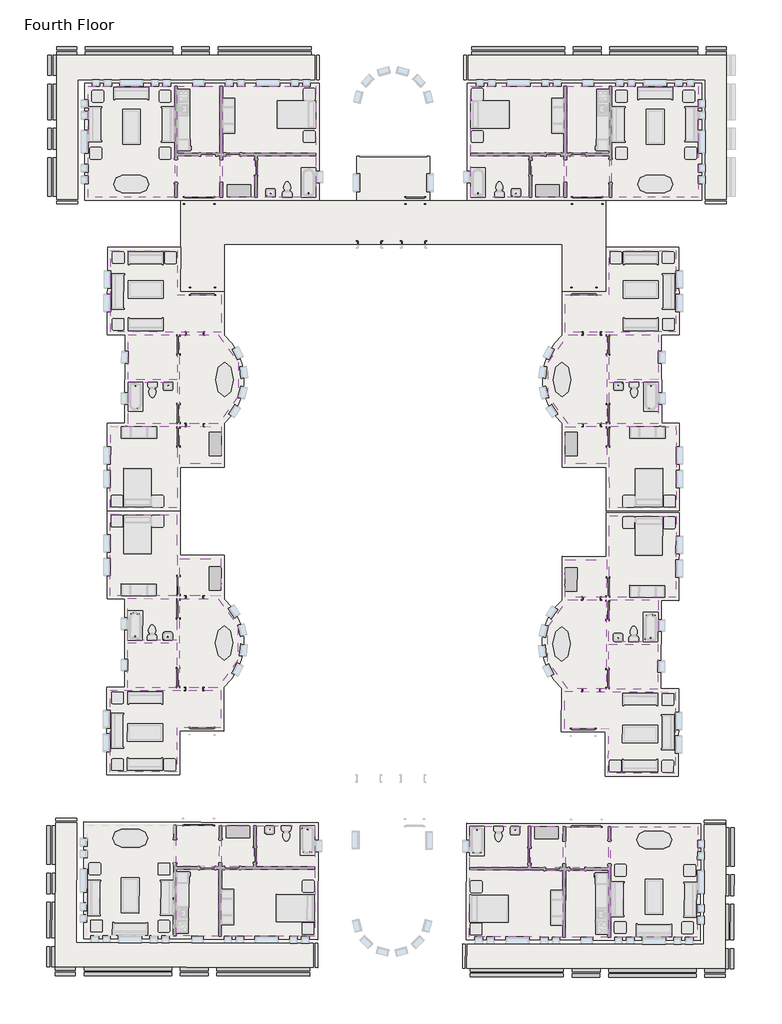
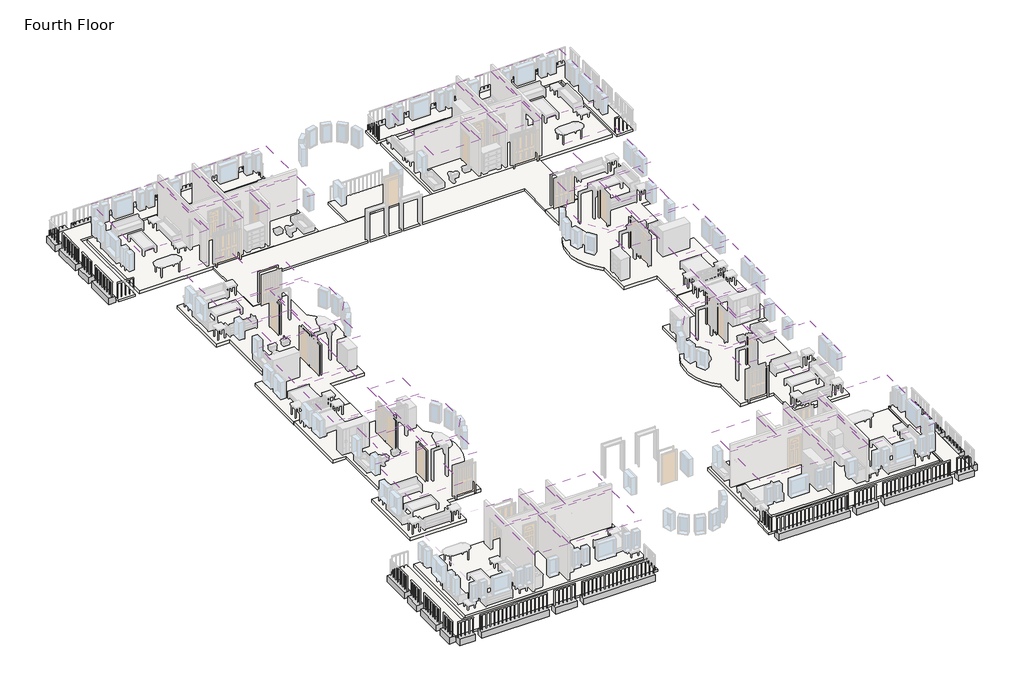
# One storey, part 3 of 8: 47 coverings, 14 slabs, 7 beams.
"""IFC4 building model written with IfcOpenShell, lengths in millimetres."""

from ifc_helpers import new_model, si_unit, point, frame, frame_2d, origin, place, context, project, spatial, polyline, circle_curve, trimmed, segment, composite_curve, outline, extrude, element, save

model = new_model("IFC4")

# Units and contexts
model_context = context("Model", 3, world=origin())
ifc_project = project(units=[si_unit("LENGTHUNIT", "METRE", prefix="MILLI")], contexts=[model_context])

# Site, building, storey
site = spatial("IfcSite", under=ifc_project)
building = spatial("IfcBuilding", under=site)
storey = spatial("IfcBuildingStorey", under=building, Name="Fourth Floor", Elevation=9144.0)

# Beams
placement = place(None, origin())
element("IfcBeam", 1, ObjectType="M_Concrete-Rectangular Beam : 450 x 450", at=placement, inside=storey, context=model_context, shape_type="SweptSolid", body=[
    extrude(outline(polyline([(-1643.3416203, 4481.1188386), (-1643.3416203, 4031.1188386), (-2693.3416203, 4031.1188386), (-2693.3416203, 4481.1188386), (-1643.3416203, 4481.1188386)])), frame((0.0, 0.0, 8694.0), z_axis=(0.0, 0.0, 1.0), x_axis=(1.0, 0.0, 0.0)), (0.0, 0.0, 1.0), 450.0),
    extrude(outline(polyline([(-14885.3416203, 4031.1188386), (-14885.3416203, 4481.1188386), (-10043.3416203, 4481.1188386), (-10043.3416203, 4031.1188386), (-14885.3416203, 4031.1188386)])), frame((0.0, 0.0, 8694.0), z_axis=(0.0, 0.0, 1.0), x_axis=(1.0, 0.0, 0.0)), (0.0, 0.0, 1.0), 450.0),
    extrude(outline(polyline([(-3143.3416203, 4481.1188386), (-3143.3416203, 4031.1188386), (-7693.3416203, 4031.1188386), (-7693.3416203, 4481.1188386), (-3143.3416203, 4481.1188386)])), frame((0.0, 0.0, 8694.0), z_axis=(0.0, 0.0, 1.0), x_axis=(1.0, 0.0, 0.0)), (0.0, 0.0, 1.0), 450.0),
    extrude(outline(polyline([(-8143.3416203, 4481.1188386), (-8143.3416203, 4031.1188386), (-9593.3416203, 4031.1188386), (-9593.3416203, 4481.1188386), (-8143.3416203, 4481.1188386)])), frame((0.0, 0.0, 8694.0), z_axis=(0.0, 0.0, 1.0), x_axis=(1.0, 0.0, 0.0)), (0.0, 0.0, 1.0), 450.0),
])
element("IfcBeam", 2, ObjectType="M_Concrete-Rectangular Beam : 450 x 450", at=placement, inside=storey, context=model_context, shape_type="SweptSolid", body=[
    extrude(outline(polyline([(-36458.8416203, 4031.1188386), (-36458.8416203, 4481.1188386), (-35408.8416203, 4481.1188386), (-35408.8416203, 4031.1188386), (-36458.8416203, 4031.1188386)])), frame((0.0, 0.0, 8694.0), z_axis=(0.0, 0.0, 1.0), x_axis=(1.0, 0.0, 0.0)), (0.0, 0.0, 1.0), 450.0),
    extrude(outline(polyline([(-23216.8416203, 4481.1188386), (-23216.8416203, 4031.1188386), (-28058.8416203, 4031.1188386), (-28058.8416203, 4481.1188386), (-23216.8416203, 4481.1188386)])), frame((0.0, 0.0, 8694.0), z_axis=(0.0, 0.0, 1.0), x_axis=(1.0, 0.0, 0.0)), (0.0, 0.0, 1.0), 450.0),
    extrude(outline(polyline([(-34958.8416203, 4031.1188386), (-34958.8416203, 4481.1188386), (-30408.8416203, 4481.1188386), (-30408.8416203, 4031.1188386), (-34958.8416203, 4031.1188386)])), frame((0.0, 0.0, 8694.0), z_axis=(0.0, 0.0, 1.0), x_axis=(1.0, 0.0, 0.0)), (0.0, 0.0, 1.0), 450.0),
    extrude(outline(polyline([(-29958.8416203, 4031.1188386), (-29958.8416203, 4481.1188386), (-28508.8416203, 4481.1188386), (-28508.8416203, 4031.1188386), (-29958.8416203, 4031.1188386)])), frame((0.0, 0.0, 8694.0), z_axis=(0.0, 0.0, 1.0), x_axis=(1.0, 0.0, 0.0)), (0.0, 0.0, 1.0), 450.0),
])
element("IfcBeam", 3, ObjectType="M_Concrete-Rectangular Beam : 450 x 450", at=placement, inside=storey, context=model_context, shape_type="SweptSolid", body=[
    extrude(outline(polyline([(-36458.8416203, -3289.8811614), (-36908.8416203, -3289.8811614), (-36908.8416203, -1295.3811614), (-36458.8416203, -1295.3811614), (-36458.8416203, -3289.8811614)])), frame((0.0, 0.0, 8694.0), z_axis=(0.0, 0.0, 1.0), x_axis=(1.0, 0.0, 0.0)), (0.0, 0.0, 1.0), 450.0),
    extrude(outline(polyline([(-36458.8416203, 2981.1188386), (-36908.8416203, 2981.1188386), (-36908.8416203, 4031.1188386), (-36458.8416203, 4031.1188386), (-36458.8416203, 2981.1188386)])), frame((0.0, 0.0, 8694.0), z_axis=(0.0, 0.0, 1.0), x_axis=(1.0, 0.0, 0.0)), (0.0, 0.0, 1.0), 450.0),
    extrude(outline(polyline([(-36908.8416203, 2531.1188386), (-36458.8416203, 2531.1188386), (-36458.8416203, 681.1188386), (-36908.8416203, 681.1188386), (-36908.8416203, 2531.1188386)])), frame((0.0, 0.0, 8694.0), z_axis=(0.0, 0.0, 1.0), x_axis=(1.0, 0.0, 0.0)), (0.0, 0.0, 1.0), 450.0),
    extrude(outline(polyline([(-36908.8416203, 231.1188386), (-36458.8416203, 231.1188386), (-36458.8416203, -845.3811614), (-36908.8416203, -845.3811614), (-36908.8416203, 231.1188386)])), frame((0.0, 0.0, 8694.0), z_axis=(0.0, 0.0, 1.0), x_axis=(1.0, 0.0, 0.0)), (0.0, 0.0, 1.0), 450.0),
])
element("IfcBeam", 4, ObjectType="M_Concrete-Rectangular Beam : 450 x 450", at=placement, inside=storey, context=model_context, shape_type="SweptSolid", body=[
    extrude(outline(polyline([(-1712.0689607, -43451.2055858), (-1713.3716449, -43901.2037003), (-2763.3672453, -43898.1641037), (-2762.0645611, -43448.1659892), (-1712.0689607, -43451.2055858)])), frame((0.0, 0.0, 8694.0), z_axis=(0.0, 0.0, 1.0), x_axis=(1.0, 0.0, 0.0)), (0.0, 0.0, 1.0), 450.0),
    extrude(outline(polyline([(-14955.3161596, -43862.8700448), (-14954.0134754, -43412.8719303), (-10112.0337638, -43426.888813), (-10113.3364481, -43876.8869274), (-14955.3161596, -43862.8700448)])), frame((0.0, 0.0, 8694.0), z_axis=(0.0, 0.0, 1.0), x_axis=(1.0, 0.0, 0.0)), (0.0, 0.0, 1.0), 450.0),
    extrude(outline(polyline([(-3212.0626755, -43446.863305), (-3213.3653598, -43896.8614194), (-7763.3462948, -43883.6898341), (-7762.0436106, -43433.6917196), (-3212.0626755, -43446.863305)])), frame((0.0, 0.0, 8694.0), z_axis=(0.0, 0.0, 1.0), x_axis=(1.0, 0.0, 0.0)), (0.0, 0.0, 1.0), 450.0),
    extrude(outline(polyline([(-8212.041725, -43432.3890354), (-8213.3444093, -43882.3871498), (-9663.3383336, -43878.1896117), (-9662.0356494, -43428.1914972), (-8212.041725, -43432.3890354)])), frame((0.0, 0.0, 8694.0), z_axis=(0.0, 0.0, 1.0), x_axis=(1.0, 0.0, 0.0)), (0.0, 0.0, 1.0), 450.0),
])
element("IfcBeam", 5, ObjectType="M_Concrete-Rectangular Beam : 450 x 450", at=placement, inside=storey, context=model_context, shape_type="SweptSolid", body=[
    extrude(outline(polyline([(-1690.8757352, -36130.2362615), (-1240.8776207, -36131.5389458), (-1246.6514068, -38126.0305886), (-1696.6495213, -38124.7279044), (-1690.8757352, -36130.2362615)])), frame((0.0, 0.0, 8694.0), z_axis=(0.0, 0.0, 1.0), x_axis=(1.0, 0.0, 0.0)), (0.0, 0.0, 1.0), 450.0),
    extrude(outline(polyline([(-1709.0293641, -42401.2099854), (-1259.0312496, -42402.5126697), (-1262.0708462, -43452.5082701), (-1712.0689607, -43451.2055858), (-1709.0293641, -42401.2099854)])), frame((0.0, 0.0, 8694.0), z_axis=(0.0, 0.0, 1.0), x_axis=(1.0, 0.0, 0.0)), (0.0, 0.0, 1.0), 450.0),
    extrude(outline(polyline([(-1257.7285653, -41952.5145552), (-1707.7266798, -41951.211871), (-1702.3712001, -40101.2196227), (-1252.3730856, -40102.5223069), (-1257.7285653, -41952.5145552)])), frame((0.0, 0.0, 8694.0), z_axis=(0.0, 0.0, 1.0), x_axis=(1.0, 0.0, 0.0)), (0.0, 0.0, 1.0), 450.0),
    extrude(outline(polyline([(-1251.0704013, -39652.5241925), (-1701.0685158, -39651.2215082), (-1697.9522056, -38574.7260188), (-1247.9540911, -38576.0287031), (-1251.0704013, -39652.5241925)])), frame((0.0, 0.0, 8694.0), z_axis=(0.0, 0.0, 1.0), x_axis=(1.0, 0.0, 0.0)), (0.0, 0.0, 1.0), 450.0),
])
element("IfcBeam", 6, ObjectType="M_Concrete-Rectangular Beam : 450 x 450", at=placement, inside=storey, context=model_context, shape_type="SweptSolid", body=[
    extrude(outline(polyline([(-36528.7257646, -43800.4179138), (-36527.4230803, -43350.4197994), (-35477.4274799, -43353.459396), (-35478.7301642, -43803.4575104), (-36528.7257646, -43800.4179138)])), frame((0.0, 0.0, 8694.0), z_axis=(0.0, 0.0, 1.0), x_axis=(1.0, 0.0, 0.0)), (0.0, 0.0, 1.0), 450.0),
    extrude(outline(polyline([(-23285.4785656, -43388.7534549), (-23286.7812498, -43838.7515694), (-28128.7609614, -43824.7346867), (-28127.4582771, -43374.7365723), (-23285.4785656, -43388.7534549)])), frame((0.0, 0.0, 8694.0), z_axis=(0.0, 0.0, 1.0), x_axis=(1.0, 0.0, 0.0)), (0.0, 0.0, 1.0), 450.0),
    extrude(outline(polyline([(-35028.7320497, -43804.7601947), (-35027.4293654, -43354.7620803), (-30477.4484304, -43367.9336656), (-30478.7511147, -43817.93178), (-35028.7320497, -43804.7601947)])), frame((0.0, 0.0, 8694.0), z_axis=(0.0, 0.0, 1.0), x_axis=(1.0, 0.0, 0.0)), (0.0, 0.0, 1.0), 450.0),
    extrude(outline(polyline([(-30028.7530002, -43819.2344643), (-30027.4503159, -43369.2363498), (-28577.4563916, -43373.433888), (-28578.7590758, -43823.4320025), (-30028.7530002, -43819.2344643)])), frame((0.0, 0.0, 8694.0), z_axis=(0.0, 0.0, 1.0), x_axis=(1.0, 0.0, 0.0)), (0.0, 0.0, 1.0), 450.0),
])
element("IfcBeam", 7, ObjectType="M_Concrete-Rectangular Beam : 450 x 450", at=placement, inside=storey, context=model_context, shape_type="SweptSolid", body=[
    extrude(outline(polyline([(-36974.3815981, -42299.1215147), (-36524.3834837, -42300.424199), (-36527.4230803, -43350.4197994), (-36977.4211948, -43349.1171151), (-36974.3815981, -42299.1215147)])), frame((0.0, 0.0, 8694.0), z_axis=(0.0, 0.0, 1.0), x_axis=(1.0, 0.0, 0.0)), (0.0, 0.0, 1.0), 450.0),
    extrude(outline(polyline([(-36956.2279692, -36028.1477908), (-36506.2298548, -36029.4504751), (-36512.0036409, -38023.9421179), (-36962.0017554, -38022.6394337), (-36956.2279692, -36028.1477908)])), frame((0.0, 0.0, 8694.0), z_axis=(0.0, 0.0, 1.0), x_axis=(1.0, 0.0, 0.0)), (0.0, 0.0, 1.0), 450.0),
    extrude(outline(polyline([(-36523.0807994, -41850.4260845), (-36973.0789139, -41849.1234003), (-36967.7234341, -39999.1311519), (-36517.7253197, -40000.4338362), (-36523.0807994, -41850.4260845)])), frame((0.0, 0.0, 8694.0), z_axis=(0.0, 0.0, 1.0), x_axis=(1.0, 0.0, 0.0)), (0.0, 0.0, 1.0), 450.0),
    extrude(outline(polyline([(-36516.4226354, -39550.4357218), (-36966.4207499, -39549.1330375), (-36963.3044396, -38472.6375481), (-36513.3063252, -38473.9402324), (-36516.4226354, -39550.4357218)])), frame((0.0, 0.0, 8694.0), z_axis=(0.0, 0.0, 1.0), x_axis=(1.0, 0.0, 0.0)), (0.0, 0.0, 1.0), 450.0),
])

# Coverings
element("IfcCovering", 8, ObjectType="Plain", at=placement, inside=storey, context=model_context, shape_type="SweptSolid", body=[
    extrude(outline(polyline([(-14935.3416203, 2406.1188386), (-10086.8416203, 2406.1188386), (-10086.8416203, -1070.3811614), (-14935.3416203, -1070.3811614), (-14935.3416203, 2406.1188386)])), frame((0.0, 0.0, 11734.0), z_axis=(0.0, 0.0, 1.0), x_axis=(1.0, 0.0, 0.0)), (0.0, 0.0, 1.0), 57.0),
])
element("IfcCovering", 9, ObjectType="Plain", at=placement, inside=storey, context=model_context, shape_type="SweptSolid", body=[
    extrude(outline(polyline([(-9951.3416203, -1070.3811614), (-9951.3416203, 2406.1188386), (-7733.0916203, 2406.1188386), (-7733.0916203, -1070.3811614), (-9951.3416203, -1070.3811614)])), frame((0.0, 0.0, 11734.0), z_axis=(0.0, 0.0, 1.0), x_axis=(1.0, 0.0, 0.0)), (0.0, 0.0, 1.0), 57.0),
])
element("IfcCovering", 10, ObjectType="Plain", at=placement, inside=storey, context=model_context, shape_type="SweptSolid", body=[
    extrude(outline(polyline([(-7597.5916203, -3339.8811614), (-7597.5916203, 2406.1188386), (-3093.3416203, 2406.1188386), (-3093.3416203, -3339.8811614), (-7597.5916203, -3339.8811614)])), frame((0.0, 0.0, 11734.0), z_axis=(0.0, 0.0, 1.0), x_axis=(1.0, 0.0, 0.0)), (0.0, 0.0, 1.0), 57.0),
])
element("IfcCovering", 11, ObjectType="Plain", at=placement, inside=storey, context=model_context, shape_type="SweptSolid", body=[
    extrude(outline(polyline([(-7733.0916203, -3339.8811614), (-9951.3416203, -3339.8811614), (-9951.3416203, -1205.8811614), (-7733.0916203, -1205.8811614), (-7733.0916203, -3339.8811614)])), frame((0.0, 0.0, 11734.0), z_axis=(0.0, 0.0, 1.0), x_axis=(1.0, 0.0, 0.0)), (0.0, 0.0, 1.0), 57.0),
])
element("IfcCovering", 12, ObjectType="Plain", at=placement, inside=storey, context=model_context, shape_type="SweptSolid", body=[
    extrude(outline(polyline([(-11887.3416203, -1205.8811614), (-11887.3416203, -3339.8811614), (-14935.3416203, -3339.8811614), (-14935.3416203, -1205.8811614), (-11887.3416203, -1205.8811614)])), frame((0.0, 0.0, 11734.0), z_axis=(0.0, 0.0, 1.0), x_axis=(1.0, 0.0, 0.0)), (0.0, 0.0, 1.0), 57.0),
])
element("IfcCovering", 13, ObjectType="Plain", at=placement, inside=storey, context=model_context, shape_type="SweptSolid", body=[
    extrude(outline(polyline([(-10086.8416203, -3339.8811614), (-11751.8416203, -3339.8811614), (-11751.8416203, -1205.8811614), (-10086.8416203, -1205.8811614), (-10086.8416203, -3339.8811614)])), frame((0.0, 0.0, 11734.0), z_axis=(0.0, 0.0, 1.0), x_axis=(1.0, 0.0, 0.0)), (0.0, 0.0, 1.0), 57.0),
])
element("IfcCovering", 14, ObjectType="Plain", at=placement, inside=storey, context=model_context, shape_type="SweptSolid", body=[
    extrude(outline(polyline([(-7719.603401, -17382.7647995), (-7726.8533934, -17382.7752934), (-7729.9194088, -15264.5275123), (-5002.0722663, -15260.5791445), (-5002.0617724, -15267.829137), (-4262.662547, -15266.7589083), (-4256.5515039, -19488.7544857), (-7716.5478795, -19493.7625882), (-7719.603401, -17382.7647995)])), frame((0.0, 0.0, 11735.0), z_axis=(0.0, 0.0, 1.0), x_axis=(1.0, 0.0, 0.0)), (0.0, 0.0, 1.0), 57.0),
])
element("IfcCovering", 15, ObjectType="Plain", at=placement, inside=storey, context=model_context, shape_type="SweptSolid", body=[
    extrude(outline(polyline([(-7730.1155353, -15129.0276542), (-7733.2504483, -12963.179923), (-5180.4031225, -12959.4848553), (-5177.2682095, -15125.3325865), (-7730.1155353, -15129.0276542)])), frame((0.0, 0.0, 11735.0), z_axis=(0.0, 0.0, 1.0), x_axis=(1.0, 0.0, 0.0)), (0.0, 0.0, 1.0), 57.0),
])
element("IfcCovering", 16, ObjectType="Plain", at=placement, inside=storey, context=model_context, shape_type="SweptSolid", body=[
    extrude(outline(polyline([(-7733.4465749, -12827.680065), (-7736.8265375, -10492.5325111), (-5183.9792116, -10488.8374433), (-5180.599249, -12823.9849972), (-7733.4465749, -12827.680065)])), frame((0.0, 0.0, 11735.0), z_axis=(0.0, 0.0, 1.0), x_axis=(1.0, 0.0, 0.0)), (0.0, 0.0, 1.0), 57.0),
])
element("IfcCovering", 17, ObjectType="Plain", at=placement, inside=storey, context=model_context, shape_type="SweptSolid", body=[
    extrude(outline(polyline([(-10015.770277, -10360.3309807), (-10018.5829924, -8417.0830163), (-7732.585387, -8413.7741948), (-7735.8942085, -6127.7765894), (-4275.8978329, -6122.7684869), (-4269.7867899, -10344.7640643), (-5009.1860154, -10345.8342929), (-5009.1755215, -10353.0842853), (-10015.770277, -10360.3309807)])), frame((0.0, 0.0, 11735.0), z_axis=(0.0, 0.0, 1.0), x_axis=(1.0, 0.0, 0.0)), (0.0, 0.0, 1.0), 57.0),
])
element("IfcCovering", 18, ObjectType="Plain", at=placement, inside=storey, context=model_context, shape_type="SweptSolid", body=[
    extrude(outline(composite_curve([segment(polyline([(-9871.5226854, -10495.6223343), (-7872.3263955, -10492.7286377), (-7865.6153934, -15129.2237808), (-9864.8116833, -15132.1174775)]), True, "CONTINUOUS"), segment(trimmed(circle_curve(frame_2d((-8171.1580789, -12811.413604)), 2873.0), [point((-9864.8116833, -15132.1174775))], [point((-9871.5226854, -10495.6223343))], False, "CARTESIAN"), True, "CONTINUOUS")], self_intersect=False)), frame((0.0, 0.0, 11735.0), z_axis=(0.0, 0.0, 1.0), x_axis=(1.0, 0.0, 0.0)), (0.0, 0.0, 1.0), 57.0),
])
element("IfcCovering", 19, ObjectType="Plain", at=placement, inside=storey, context=model_context, shape_type="SweptSolid", body=[
    extrude(outline(polyline([(-10008.6670217, -15267.8258399), (-7865.4192668, -15264.7236389), (-7862.6065515, -17207.9716033), (-10005.8543064, -17211.0738043), (-10008.6670217, -15267.8258399)])), frame((0.0, 0.0, 11735.0), z_axis=(0.0, 0.0, 1.0), x_axis=(1.0, 0.0, 0.0)), (0.0, 0.0, 1.0), 57.0),
])
element("IfcCovering", 20, ObjectType="Plain", at=placement, inside=storey, context=model_context, shape_type="SweptSolid", body=[
    extrude(outline(polyline([(-22978.8416203, 2406.1188386), (-22978.8416203, -1070.3811614), (-27827.3416203, -1070.3811614), (-27827.3416203, 2406.1188386), (-22978.8416203, 2406.1188386)])), frame((0.0, 0.0, 11734.0), z_axis=(0.0, 0.0, 1.0), x_axis=(1.0, 0.0, 0.0)), (0.0, 0.0, 1.0), 57.0),
])
element("IfcCovering", 21, ObjectType="Plain", at=placement, inside=storey, context=model_context, shape_type="SweptSolid", body=[
    extrude(outline(polyline([(-27962.8416203, -1070.3811614), (-30181.0916203, -1070.3811614), (-30181.0916203, 2406.1188386), (-27962.8416203, 2406.1188386), (-27962.8416203, -1070.3811614)])), frame((0.0, 0.0, 11734.0), z_axis=(0.0, 0.0, 1.0), x_axis=(1.0, 0.0, 0.0)), (0.0, 0.0, 1.0), 57.0),
])
element("IfcCovering", 22, ObjectType="Plain", at=placement, inside=storey, context=model_context, shape_type="SweptSolid", body=[
    extrude(outline(polyline([(-30316.5916203, -3339.8811614), (-34820.8416203, -3339.8811614), (-34820.8416203, 2406.1188386), (-30316.5916203, 2406.1188386), (-30316.5916203, -3339.8811614)])), frame((0.0, 0.0, 11734.0), z_axis=(0.0, 0.0, 1.0), x_axis=(1.0, 0.0, 0.0)), (0.0, 0.0, 1.0), 57.0),
])
element("IfcCovering", 23, ObjectType="Plain", at=placement, inside=storey, context=model_context, shape_type="SweptSolid", body=[
    extrude(outline(polyline([(-30181.0916203, -3339.8811614), (-30181.0916203, -1205.8811614), (-27962.8416203, -1205.8811614), (-27962.8416203, -3339.8811614), (-30181.0916203, -3339.8811614)])), frame((0.0, 0.0, 11734.0), z_axis=(0.0, 0.0, 1.0), x_axis=(1.0, 0.0, 0.0)), (0.0, 0.0, 1.0), 57.0),
])
element("IfcCovering", 24, ObjectType="Plain", at=placement, inside=storey, context=model_context, shape_type="SweptSolid", body=[
    extrude(outline(polyline([(-26026.8416203, -1205.8811614), (-22978.8416203, -1205.8811614), (-22978.8416203, -3339.8811614), (-26026.8416203, -3339.8811614), (-26026.8416203, -1205.8811614)])), frame((0.0, 0.0, 11734.0), z_axis=(0.0, 0.0, 1.0), x_axis=(1.0, 0.0, 0.0)), (0.0, 0.0, 1.0), 57.0),
])
element("IfcCovering", 25, ObjectType="Plain", at=placement, inside=storey, context=model_context, shape_type="SweptSolid", body=[
    extrude(outline(polyline([(-27827.3416203, -3339.8811614), (-27827.3416203, -1205.8811614), (-26162.3416203, -1205.8811614), (-26162.3416203, -3339.8811614), (-27827.3416203, -3339.8811614)])), frame((0.0, 0.0, 11734.0), z_axis=(0.0, 0.0, 1.0), x_axis=(1.0, 0.0, 0.0)), (0.0, 0.0, 1.0), 57.0),
])
element("IfcCovering", 26, ObjectType="Plain", at=placement, inside=storey, context=model_context, shape_type="SweptSolid", body=[
    extrude(outline(polyline([(-30194.5798396, -17382.7647995), (-30197.6353611, -19493.7625882), (-33657.6317367, -19488.7544857), (-33651.5206937, -15266.7589083), (-32912.1214682, -15267.829137), (-32912.1109744, -15260.5791445), (-30184.2638319, -15264.5275123), (-30187.3298472, -17382.7752934), (-30194.5798396, -17382.7647995)])), frame((0.0, 0.0, 11735.0), z_axis=(0.0, 0.0, 1.0), x_axis=(1.0, 0.0, 0.0)), (0.0, 0.0, 1.0), 57.0),
])
element("IfcCovering", 27, ObjectType="Plain", at=placement, inside=storey, context=model_context, shape_type="SweptSolid", body=[
    extrude(outline(polyline([(-30184.0677053, -15129.0276542), (-32736.9150311, -15125.3325865), (-32733.7801182, -12959.4848553), (-30180.9327923, -12963.179923), (-30184.0677053, -15129.0276542)])), frame((0.0, 0.0, 11735.0), z_axis=(0.0, 0.0, 1.0), x_axis=(1.0, 0.0, 0.0)), (0.0, 0.0, 1.0), 57.0),
])
element("IfcCovering", 28, ObjectType="Plain", at=placement, inside=storey, context=model_context, shape_type="SweptSolid", body=[
    extrude(outline(polyline([(-30180.7366658, -12827.680065), (-32733.5839916, -12823.9849972), (-32730.204029, -10488.8374433), (-30177.3567032, -10492.5325111), (-30180.7366658, -12827.680065)])), frame((0.0, 0.0, 11735.0), z_axis=(0.0, 0.0, 1.0), x_axis=(1.0, 0.0, 0.0)), (0.0, 0.0, 1.0), 57.0),
])
element("IfcCovering", 29, ObjectType="Plain", at=placement, inside=storey, context=model_context, shape_type="SweptSolid", body=[
    extrude(outline(polyline([(-27898.4129637, -10360.3309807), (-32905.0077191, -10353.0842853), (-32904.9972253, -10345.8342929), (-33644.3964507, -10344.7640643), (-33638.2854077, -6122.7684869), (-30178.2890322, -6127.7765894), (-30181.5978537, -8413.7741948), (-27895.6002483, -8417.0830163), (-27898.4129637, -10360.3309807)])), frame((0.0, 0.0, 11735.0), z_axis=(0.0, 0.0, 1.0), x_axis=(1.0, 0.0, 0.0)), (0.0, 0.0, 1.0), 57.0),
])
element("IfcCovering", 30, ObjectType="Plain", at=placement, inside=storey, context=model_context, shape_type="SweptSolid", body=[
    extrude(outline(composite_curve([segment(trimmed(circle_curve(frame_2d((-29743.0251618, -12811.413604)), 2873.0), [point((-28042.6605552, -10495.6223343))], [point((-28049.3715573, -15132.1174775))], False, "CARTESIAN"), True, "CONTINUOUS"), segment(polyline([(-28049.3715573, -15132.1174775), (-30048.5678472, -15129.2237808), (-30041.8568451, -10492.7286377), (-28042.6605552, -10495.6223343)]), True, "CONTINUOUS")], self_intersect=False)), frame((0.0, 0.0, 11735.0), z_axis=(0.0, 0.0, 1.0), x_axis=(1.0, 0.0, 0.0)), (0.0, 0.0, 1.0), 57.0),
])
element("IfcCovering", 31, ObjectType="Plain", at=placement, inside=storey, context=model_context, shape_type="SweptSolid", body=[
    extrude(outline(polyline([(-27905.5162189, -15267.8258399), (-27908.3289343, -17211.0738043), (-30051.5766892, -17207.9716033), (-30048.7639738, -15264.7236389), (-27905.5162189, -15267.8258399)])), frame((0.0, 0.0, 11735.0), z_axis=(0.0, 0.0, 1.0), x_axis=(1.0, 0.0, 0.0)), (0.0, 0.0, 1.0), 57.0),
])
element("IfcCovering", 32, ObjectType="Plain", at=placement, inside=storey, context=model_context, shape_type="SweptSolid", body=[
    extrude(outline(polyline([(-14999.3091283, -41787.7339965), (-14989.2451686, -38311.2485634), (-10140.7654843, -38325.2842626), (-10150.829444, -41801.7696957), (-14999.3091283, -41787.7339965)])), frame((0.0, 0.0, 11734.0), z_axis=(0.0, 0.0, 1.0), x_axis=(1.0, 0.0, 0.0)), (0.0, 0.0, 1.0), 57.0),
])
element("IfcCovering", 33, ObjectType="Plain", at=placement, inside=storey, context=model_context, shape_type="SweptSolid", body=[
    extrude(outline(polyline([(-10005.2660521, -38325.6765153), (-7787.0253468, -38332.098025), (-7797.0893064, -41808.5834581), (-10015.3300117, -41802.1619484), (-10005.2660521, -38325.6765153)])), frame((0.0, 0.0, 11734.0), z_axis=(0.0, 0.0, 1.0), x_axis=(1.0, 0.0, 0.0)), (0.0, 0.0, 1.0), 57.0),
])
element("IfcCovering", 34, ObjectType="Plain", at=placement, inside=storey, context=model_context, shape_type="SweptSolid", body=[
    extrude(outline(polyline([(-7644.9560436, -36062.9997871), (-3140.7249168, -36076.0389329), (-3157.3587474, -41822.0148566), (-7661.5898742, -41808.9757108), (-7644.9560436, -36062.9997871)])), frame((0.0, 0.0, 11734.0), z_axis=(0.0, 0.0, 1.0), x_axis=(1.0, 0.0, 0.0)), (0.0, 0.0, 1.0), 57.0),
])
element("IfcCovering", 35, ObjectType="Plain", at=placement, inside=storey, context=model_context, shape_type="SweptSolid", body=[
    extrude(outline(polyline([(-7780.4554758, -36062.6075344), (-7786.6330941, -38196.5985928), (-10004.8737994, -38190.1770831), (-9998.6961811, -36056.1860247), (-7780.4554758, -36062.6075344)])), frame((0.0, 0.0, 11734.0), z_axis=(0.0, 0.0, 1.0), x_axis=(1.0, 0.0, 0.0)), (0.0, 0.0, 1.0), 57.0),
])
element("IfcCovering", 36, ObjectType="Plain", at=placement, inside=storey, context=model_context, shape_type="SweptSolid", body=[
    extrude(outline(polyline([(-11940.8656874, -38184.5726459), (-14988.8529159, -38175.7491311), (-14982.6752977, -36041.7580728), (-11934.6880691, -36050.5815875), (-11940.8656874, -38184.5726459)])), frame((0.0, 0.0, 11734.0), z_axis=(0.0, 0.0, 1.0), x_axis=(1.0, 0.0, 0.0)), (0.0, 0.0, 1.0), 57.0),
])
element("IfcCovering", 37, ObjectType="Plain", at=placement, inside=storey, context=model_context, shape_type="SweptSolid", body=[
    extrude(outline(polyline([(-10134.1956134, -36055.793772), (-10140.3732316, -38189.7848304), (-11805.3662551, -38184.9648986), (-11799.1886369, -36050.9738403), (-10134.1956134, -36055.793772)])), frame((0.0, 0.0, 11734.0), z_axis=(0.0, 0.0, 1.0), x_axis=(1.0, 0.0, 0.0)), (0.0, 0.0, 1.0), 57.0),
])
element("IfcCovering", 38, ObjectType="Plain", at=placement, inside=storey, context=model_context, shape_type="SweptSolid", body=[
    extrude(outline(polyline([(-7726.3152164, -22019.8217838), (-7717.1486774, -19908.8416857), (-4257.1812973, -19923.8659512), (-4275.5143752, -24145.8261474), (-5014.9074043, -24142.6154706), (-5014.9388858, -24149.8654022), (-7742.7631684, -24138.020332), (-7733.565148, -22019.7903023), (-7726.3152164, -22019.8217838)])), frame((0.0, 0.0, 11735.0), z_axis=(0.0, 0.0, 1.0), x_axis=(1.0, 0.0, 0.0)), (0.0, 0.0, 1.0), 57.0),
])
element("IfcCovering", 39, ObjectType="Plain", at=placement, inside=storey, context=model_context, shape_type="SweptSolid", body=[
    extrude(outline(polyline([(-7743.3515464, -24273.5190546), (-5190.525614, -24284.6042269), (-5199.9303266, -26450.4338079), (-7752.756259, -26439.3486356), (-7743.3515464, -24273.5190546)])), frame((0.0, 0.0, 11735.0), z_axis=(0.0, 0.0, 1.0), x_axis=(1.0, 0.0, 0.0)), (0.0, 0.0, 1.0), 57.0),
])
element("IfcCovering", 40, ObjectType="Plain", at=placement, inside=storey, context=model_context, shape_type="SweptSolid", body=[
    extrude(outline(polyline([(-7753.3446371, -26574.8473581), (-5200.5187046, -26585.9325305), (-5210.6585641, -28921.0605153), (-7763.4844965, -28909.975343), (-7753.3446371, -26574.8473581)])), frame((0.0, 0.0, 11735.0), z_axis=(0.0, 0.0, 1.0), x_axis=(1.0, 0.0, 0.0)), (0.0, 0.0, 1.0), 57.0),
])
element("IfcCovering", 41, ObjectType="Plain", at=placement, inside=storey, context=model_context, shape_type="SweptSolid", body=[
    extrude(outline(polyline([(-10042.8013912, -29035.5791103), (-5036.248592, -29057.3191357), (-5036.2800734, -29064.5690674), (-4296.8870443, -29067.7797442), (-4315.2201221, -33289.7399404), (-7775.1875022, -33274.7156749), (-7765.2610655, -30988.7372266), (-10051.2395137, -30978.8107899), (-10042.8013912, -29035.5791103)])), frame((0.0, 0.0, 11735.0), z_axis=(0.0, 0.0, 1.0), x_axis=(1.0, 0.0, 0.0)), (0.0, 0.0, 1.0), 57.0),
])
element("IfcCovering", 42, ObjectType="Plain", at=placement, inside=storey, context=model_context, shape_type="SweptSolid", body=[
    extrude(outline(composite_curve([segment(trimmed(circle_curve(frame_2d((-8191.1013961, -26589.84664)), 2873.0), [point((-9898.1627553, -28900.7058992))], [point((-9878.0298052, -24264.2496108))], False, "CARTESIAN"), True, "CONTINUOUS"), segment(polyline([(-9878.0298052, -24264.2496108), (-7878.850269, -24272.9306765), (-7898.9832191, -28909.3869649), (-9898.1627553, -28900.7058992)]), True, "CONTINUOUS")], self_intersect=False)), frame((0.0, 0.0, 11735.0), z_axis=(0.0, 0.0, 1.0), x_axis=(1.0, 0.0, 0.0)), (0.0, 0.0, 1.0), 57.0),
])
element("IfcCovering", 43, ObjectType="Plain", at=placement, inside=storey, context=model_context, shape_type="SweptSolid", body=[
    extrude(outline(polyline([(-10021.491685, -24128.1253768), (-10013.0535624, -22184.8936972), (-7869.8237684, -22194.2002744), (-7878.2618909, -24137.431954), (-10021.491685, -24128.1253768)])), frame((0.0, 0.0, 11735.0), z_axis=(0.0, 0.0, 1.0), x_axis=(1.0, 0.0, 0.0)), (0.0, 0.0, 1.0), 57.0),
])
element("IfcCovering", 44, ObjectType="Plain", at=placement, inside=storey, context=model_context, shape_type="SweptSolid", body=[
    extrude(outline(polyline([(-23042.7754252, -41764.4492391), (-27891.2551095, -41750.4135399), (-27881.1911499, -38273.9281067), (-23032.7114656, -38287.9638059), (-23042.7754252, -41764.4492391)])), frame((0.0, 0.0, 11734.0), z_axis=(0.0, 0.0, 1.0), x_axis=(1.0, 0.0, 0.0)), (0.0, 0.0, 1.0), 57.0),
])
element("IfcCovering", 45, ObjectType="Plain", at=placement, inside=storey, context=model_context, shape_type="SweptSolid", body=[
    extrude(outline(polyline([(-28016.6905821, -38273.535854), (-28026.7545418, -41750.0212871), (-30244.9952471, -41743.5997775), (-30234.9312874, -38267.1143443), (-28016.6905821, -38273.535854)])), frame((0.0, 0.0, 11734.0), z_axis=(0.0, 0.0, 1.0), x_axis=(1.0, 0.0, 0.0)), (0.0, 0.0, 1.0), 57.0),
])
element("IfcCovering", 46, ObjectType="Plain", at=placement, inside=storey, context=model_context, shape_type="SweptSolid", body=[
    extrude(outline(polyline([(-30228.3614165, -35997.6238538), (-28010.1207112, -36004.0453635), (-28016.2983294, -38138.0364218), (-30234.5390347, -38131.6149121), (-30228.3614165, -35997.6238538)])), frame((0.0, 0.0, 11734.0), z_axis=(0.0, 0.0, 1.0), x_axis=(1.0, 0.0, 0.0)), (0.0, 0.0, 1.0), 57.0),
])
element("IfcCovering", 47, ObjectType="Plain", at=placement, inside=storey, context=model_context, shape_type="SweptSolid", body=[
    extrude(outline(polyline([(-26080.3064415, -38143.640859), (-26074.1288232, -36009.6498006), (-23026.1415946, -36018.4733154), (-23032.3192129, -38152.4643737), (-26080.3064415, -38143.640859)])), frame((0.0, 0.0, 11734.0), z_axis=(0.0, 0.0, 1.0), x_axis=(1.0, 0.0, 0.0)), (0.0, 0.0, 1.0), 57.0),
])
element("IfcCovering", 48, ObjectType="Plain", at=placement, inside=storey, context=model_context, shape_type="SweptSolid", body=[
    extrude(outline(polyline([(-27874.6212789, -36004.4376162), (-26209.6282554, -36009.2575479), (-26215.8058737, -38143.2486063), (-27880.7988972, -38138.4286745), (-27874.6212789, -36004.4376162)])), frame((0.0, 0.0, 11734.0), z_axis=(0.0, 0.0, 1.0), x_axis=(1.0, 0.0, 0.0)), (0.0, 0.0, 1.0), 57.0),
])
element("IfcCovering", 49, ObjectType="Plain", at=placement, inside=storey, context=model_context, shape_type="SweptSolid", body=[
    extrude(outline(polyline([(-30201.1974826, -21954.7600102), (-30193.9474902, -21954.7705041), (-30197.0135056, -24073.0182852), (-32924.8606481, -24069.0699174), (-32924.8501542, -24061.819925), (-33664.2493797, -24060.7496964), (-33658.1383367, -19838.7541191), (-30198.1419611, -19843.7622216), (-30201.1974826, -21954.7600102)])), frame((0.0, 0.0, 11735.0), z_axis=(0.0, 0.0, 1.0), x_axis=(1.0, 0.0, 0.0)), (0.0, 0.0, 1.0), 57.0),
])
element("IfcCovering", 50, ObjectType="Plain", at=placement, inside=storey, context=model_context, shape_type="SweptSolid", body=[
    extrude(outline(polyline([(-30197.2096321, -24208.5181432), (-30200.3445451, -26374.3658745), (-32753.1918709, -26370.6708067), (-32750.056958, -24204.8230755), (-30197.2096321, -24208.5181432)])), frame((0.0, 0.0, 11735.0), z_axis=(0.0, 0.0, 1.0), x_axis=(1.0, 0.0, 0.0)), (0.0, 0.0, 1.0), 57.0),
])
element("IfcCovering", 51, ObjectType="Plain", at=placement, inside=storey, context=model_context, shape_type="SweptSolid", body=[
    extrude(outline(polyline([(-30200.5406716, -26509.8657325), (-30203.9206342, -28845.0132864), (-32756.7679601, -28841.3182186), (-32753.3879975, -26506.1706647), (-30200.5406716, -26509.8657325)])), frame((0.0, 0.0, 11735.0), z_axis=(0.0, 0.0, 1.0), x_axis=(1.0, 0.0, 0.0)), (0.0, 0.0, 1.0), 57.0),
])
element("IfcCovering", 52, ObjectType="Plain", at=placement, inside=storey, context=model_context, shape_type="SweptSolid", body=[
    extrude(outline(polyline([(-27925.3691479, -28983.8114721), (-27928.1818632, -30927.0594365), (-30214.1794686, -30923.750615), (-30217.4882901, -33209.7482204), (-33677.4846656, -33204.7401178), (-33671.3736226, -28982.7445405), (-32931.9743972, -28983.8147691), (-32931.9639033, -28976.5647767), (-27925.3691479, -28983.8114721)])), frame((0.0, 0.0, 11735.0), z_axis=(0.0, 0.0, 1.0), x_axis=(1.0, 0.0, 0.0)), (0.0, 0.0, 1.0), 57.0),
])
element("IfcCovering", 53, ObjectType="Plain", at=placement, inside=storey, context=model_context, shape_type="SweptSolid", body=[
    extrude(outline(composite_curve([segment(polyline([(-28069.2244863, -28848.1031096), (-30068.4207762, -28845.209413), (-30061.7097741, -24208.7142698), (-28062.5134842, -24211.6079665)]), True, "CONTINUOUS"), segment(trimmed(circle_curve(frame_2d((-29762.8780907, -26527.3992362)), 2873.0), [point((-28062.5134842, -24211.6079665))], [point((-28069.2244863, -28848.1031096))], False, "CARTESIAN"), True, "CONTINUOUS")], self_intersect=False)), frame((0.0, 0.0, 11735.0), z_axis=(0.0, 0.0, 1.0), x_axis=(1.0, 0.0, 0.0)), (0.0, 0.0, 1.0), 57.0),
])
element("IfcCovering", 54, ObjectType="Plain", at=placement, inside=storey, context=model_context, shape_type="SweptSolid", body=[
    extrude(outline(polyline([(-27918.2658926, -24076.3166128), (-30061.5136475, -24073.2144117), (-30058.7009321, -22129.9664473), (-27915.4531772, -22133.0686484), (-27918.2658926, -24076.3166128)])), frame((0.0, 0.0, 11735.0), z_axis=(0.0, 0.0, 1.0), x_axis=(1.0, 0.0, 0.0)), (0.0, 0.0, 1.0), 57.0),
])

# Slabs
element("IfcSlab", 55, ObjectType="160mm Concrete With 50mm Metal Deck", at=placement, inside=storey, context=model_context, shape_type="SweptSolid", body=[
    extrude(outline(polyline([(-2928.3416203, 2571.1188386), (-2928.3416203, -3504.8811614), (-15100.3416203, -3504.8811614), (-15100.3416203, 2571.1188386), (-2928.3416203, 2571.1188386)])), frame((0.0, 0.0, 8934.0), z_axis=(0.0, 0.0, 1.0), x_axis=(1.0, 0.0, 0.0)), (0.0, 0.0, 1.0), 210.0),
])
element("IfcSlab", 56, ObjectType="160mm Concrete With 50mm Metal Deck", at=placement, inside=storey, context=model_context, shape_type="SweptSolid", body=[
    extrude(outline(composite_curve([segment(polyline([(-4091.3128511, -19653.5154871), (-7881.308881, -19659.0012411), (-7884.6177025, -17373.0036357), (-10170.6153078, -17376.3124572), (-10173.9161954, -15095.7962179)]), True, "CONTINUOUS"), segment(trimmed(circle_curve(frame_2d((-8171.1580789, -12811.413604)), 3038.0), [point((-10173.9161954, -15095.7962179))], [point((-10180.5207576, -10532.8382541))], False, "CARTESIAN"), True, "CONTINUOUS"), segment(polyline([(-10180.5207576, -10532.8382541), (-10183.8216452, -8252.3220148), (-7897.8240398, -8249.0131933), (-7901.1328613, -5963.015588), (-4111.1368315, -5957.5298341), (-4104.548137, -10509.5250657), (-5018.9471792, -10510.8485943), (-5012.3005876, -15102.8437841), (-4097.9015455, -15101.5202555), (-4091.3128511, -19653.5154871)]), True, "CONTINUOUS")], self_intersect=False)), frame((0.0, 0.0, 8934.0), z_axis=(0.0, 0.0, 1.0), x_axis=(1.0, 0.0, 0.0)), (0.0, 0.0, 1.0), 210.0),
])
element("IfcSlab", 57, ObjectType="160mm Concrete With 50mm Metal Deck", at=placement, inside=storey, context=model_context, shape_type="SweptSolid", body=[
    extrude(outline(polyline([(-34985.8416203, 2571.1188386), (-22813.8416203, 2571.1188386), (-22813.8416203, -3504.8811614), (-34985.8416203, -3504.8811614), (-34985.8416203, 2571.1188386)])), frame((0.0, 0.0, 8934.0), z_axis=(0.0, 0.0, 1.0), x_axis=(1.0, 0.0, 0.0)), (0.0, 0.0, 1.0), 210.0),
])
element("IfcSlab", 58, ObjectType="160mm Concrete With 50mm Metal Deck", at=placement, inside=storey, context=model_context, shape_type="SweptSolid", body=[
    extrude(outline(composite_curve([segment(polyline([(-33822.8703896, -19653.5154871), (-33816.2816951, -15101.5202555), (-32901.882653, -15102.8437841), (-32895.2360615, -10510.8485943), (-33809.6351036, -10509.5250657), (-33803.0464092, -5957.5298341), (-30013.0503793, -5963.015588), (-30016.3592008, -8249.0131933), (-27730.3615954, -8252.3220148), (-27733.662483, -10532.8382541)]), True, "CONTINUOUS"), segment(trimmed(circle_curve(frame_2d((-29743.0251618, -12811.413604)), 3038.0), [point((-27733.662483, -10532.8382541))], [point((-27740.2670452, -15095.7962179))], False, "CARTESIAN"), True, "CONTINUOUS"), segment(polyline([(-27740.2670452, -15095.7962179), (-27743.5679328, -17376.3124572), (-30029.5655382, -17373.0036357), (-30032.8743597, -19659.0012411), (-33822.8703896, -19653.5154871)]), True, "CONTINUOUS")], self_intersect=False)), frame((0.0, 0.0, 8934.0), z_axis=(0.0, 0.0, 1.0), x_axis=(1.0, 0.0, 0.0)), (0.0, 0.0, 1.0), 210.0),
])
element("IfcSlab", 59, ObjectType="160mm Concrete With 50mm Metal Deck", at=placement, inside=storey, context=model_context, shape_type="SweptSolid", body=[
    extrude(outline(polyline([(-2992.8370897, -41987.4918161), (-15164.7860878, -41952.2556543), (-15147.1969554, -35876.2811133), (-2975.2479573, -35911.5172751), (-2992.8370897, -41987.4918161)])), frame((0.0, 0.0, 8934.0), z_axis=(0.0, 0.0, 1.0), x_axis=(1.0, 0.0, 0.0)), (0.0, 0.0, 1.0), 210.0),
])
element("IfcSlab", 60, ObjectType="160mm Concrete With 50mm Metal Deck", at=placement, inside=storey, context=model_context, shape_type="SweptSolid", body=[
    extrude(outline(composite_curve([segment(polyline([(-4091.4663778, -19759.5839819), (-4111.2324058, -24311.541067), (-5025.6237851, -24307.5704923), (-5045.5635041, -28899.5272002), (-4131.1721248, -28903.4977749), (-4150.9381528, -33455.45486), (-7940.9024218, -33438.9976442), (-7930.975985, -31153.0191959), (-10216.9544333, -31143.0927592), (-10207.0517981, -28862.5956311)]), True, "CONTINUOUS"), segment(trimmed(circle_curve(frame_2d((-8191.1013961, -26589.84664)), 3038.0), [point((-10207.0517981, -28862.5956311))], [point((-10187.2381669, -24299.6759058))], False, "CARTESIAN"), True, "CONTINUOUS"), segment(polyline([(-10187.2381669, -24299.6759058), (-10177.3355318, -22019.1787777), (-7891.3570835, -22029.1052144), (-7881.4306468, -19743.1267661), (-4091.4663778, -19759.5839819)]), True, "CONTINUOUS")], self_intersect=False)), frame((0.0, 0.0, 8934.0), z_axis=(0.0, 0.0, 1.0), x_axis=(1.0, 0.0, 0.0)), (0.0, 0.0, 1.0), 210.0),
])
element("IfcSlab", 61, ObjectType="160mm Concrete With 50mm Metal Deck", at=placement, inside=storey, context=model_context, shape_type="SweptSolid", body=[
    extrude(outline(polyline([(-35050.2027656, -41894.6900367), (-35032.6136332, -35818.7154958), (-22860.6646351, -35853.9516576), (-22878.2537675, -41929.9261986), (-35050.2027656, -41894.6900367)])), frame((0.0, 0.0, 8934.0), z_axis=(0.0, 0.0, 1.0), x_axis=(1.0, 0.0, 0.0)), (0.0, 0.0, 1.0), 210.0),
])
element("IfcSlab", 62, ObjectType="160mm Concrete With 50mm Metal Deck", at=placement, inside=storey, context=model_context, shape_type="SweptSolid", body=[
    extrude(outline(composite_curve([segment(polyline([(-33822.8993381, -19673.5154662), (-30032.9033083, -19679.0012201), (-30036.2121297, -21964.9988255), (-27750.2145244, -21968.307647), (-27753.515412, -24248.8238862)]), True, "CONTINUOUS"), segment(trimmed(circle_curve(frame_2d((-29762.8780907, -26527.3992362)), 3038.0), [point((-27753.515412, -24248.8238862))], [point((-27760.1199742, -28811.7818501))], False, "CARTESIAN"), True, "CONTINUOUS"), segment(polyline([(-27760.1199742, -28811.7818501), (-27763.4208618, -31092.2980893), (-30049.4184671, -31088.9892679), (-30052.7272886, -33374.9868732), (-33842.7233185, -33369.5011193), (-33836.1346241, -28817.5058876), (-32921.7355819, -28818.8294162), (-32915.0889904, -24226.8342265), (-33829.4880325, -24225.5106979), (-33822.8993381, -19673.5154662)]), True, "CONTINUOUS")], self_intersect=False)), frame((0.0, 0.0, 8934.0), z_axis=(0.0, 0.0, 1.0), x_axis=(1.0, 0.0, 0.0)), (0.0, 0.0, 1.0), 210.0),
])
element("IfcSlab", 63, ObjectType="Generic 150mm", at=placement, inside=storey, context=model_context, shape_type="SweptSolid", body=[
    extrude(outline(polyline([(-7918.0916203, -3524.8811614), (-7918.0916203, -8229.2811614), (-10184.0916203, -8229.2811614), (-10184.0916203, -5790.8811614), (-27730.0916203, -5790.8811614), (-27730.0916203, -8229.2811614), (-29996.0916203, -8229.2811614), (-29996.0916203, -3524.8811614), (-7918.0916203, -3524.8811614)])), frame((0.0, 0.0, 8994.0), z_axis=(0.0, 0.0, 1.0), x_axis=(1.0, 0.0, 0.0)), (0.0, 0.0, 1.0), 150.0),
])
element("IfcSlab", 64, ObjectType="Generic 150mm", at=placement, inside=storey, context=model_context, shape_type="SweptSolid", body=[
    extrude(outline(polyline([(-17052.0916203, -3514.8811614), (-20862.0916203, -3514.8811614), (-20862.0916203, -1228.8811614), (-17052.0916203, -1228.8811614), (-17052.0916203, -3514.8811614)])), frame((0.0, 0.0, 8994.0), z_axis=(0.0, 0.0, 1.0), x_axis=(1.0, 0.0, 0.0)), (0.0, 0.0, 1.0), 150.0),
])
element("IfcSlab", 65, ObjectType="Generic 150mm", at=placement, inside=storey, context=model_context, shape_type="SweptSolid", body=[
    extrude(outline(polyline([(-15285.3416203, 4031.1188386), (-1643.3416203, 4031.1188386), (-1643.3416203, -3689.8811614), (-2743.3416203, -3689.8811614), (-2743.3416203, 2756.1188386), (-15285.3416203, 2756.1188386), (-15285.3416203, 4031.1188386)])), frame((0.0, 0.0, 8994.0), z_axis=(0.0, 0.0, 1.0), x_axis=(1.0, 0.0, 0.0)), (0.0, 0.0, 1.0), 150.0),
])
element("IfcSlab", 66, ObjectType="Generic 150mm", at=placement, inside=storey, context=model_context, shape_type="SweptSolid", body=[
    extrude(outline(polyline([(-22816.8416203, 4031.1188386), (-22816.8416203, 2756.1188386), (-35358.8416203, 2756.1188386), (-35358.8416203, -3689.8811614), (-36458.8416203, -3689.8811614), (-36458.8416203, 4031.1188386), (-22816.8416203, 4031.1188386)])), frame((0.0, 0.0, 8994.0), z_axis=(0.0, 0.0, 1.0), x_axis=(1.0, 0.0, 0.0)), (0.0, 0.0, 1.0), 150.0),
])
element("IfcSlab", 67, ObjectType="Generic 150mm", at=placement, inside=storey, context=model_context, shape_type="SweptSolid", body=[
    extrude(outline(polyline([(-15354.0117993, -43411.7139887), (-15350.3208606, -42136.7193311), (-2808.3734128, -42173.0265889), (-2789.7131845, -35727.0535983), (-1689.7177936, -35730.2379376), (-1712.0689607, -43451.2055858), (-15354.0117993, -43411.7139887)])), frame((0.0, 0.0, 8994.0), z_axis=(0.0, 0.0, 1.0), x_axis=(1.0, 0.0, 0.0)), (0.0, 0.0, 1.0), 150.0),
])
element("IfcSlab", 68, ObjectType="Generic 150mm", at=placement, inside=storey, context=model_context, shape_type="SweptSolid", body=[
    extrude(outline(polyline([(-22885.4802416, -43389.9113965), (-36527.4230803, -43350.4197994), (-36505.0719132, -35629.4521511), (-35405.0765223, -35632.6364904), (-35423.7367507, -42078.6094811), (-22881.7893029, -42114.9167389), (-22885.4802416, -43389.9113965)])), frame((0.0, 0.0, 8994.0), z_axis=(0.0, 0.0, 1.0), x_axis=(1.0, 0.0, 0.0)), (0.0, 0.0, 1.0), 150.0),
])

save(model, "model.ifc")
